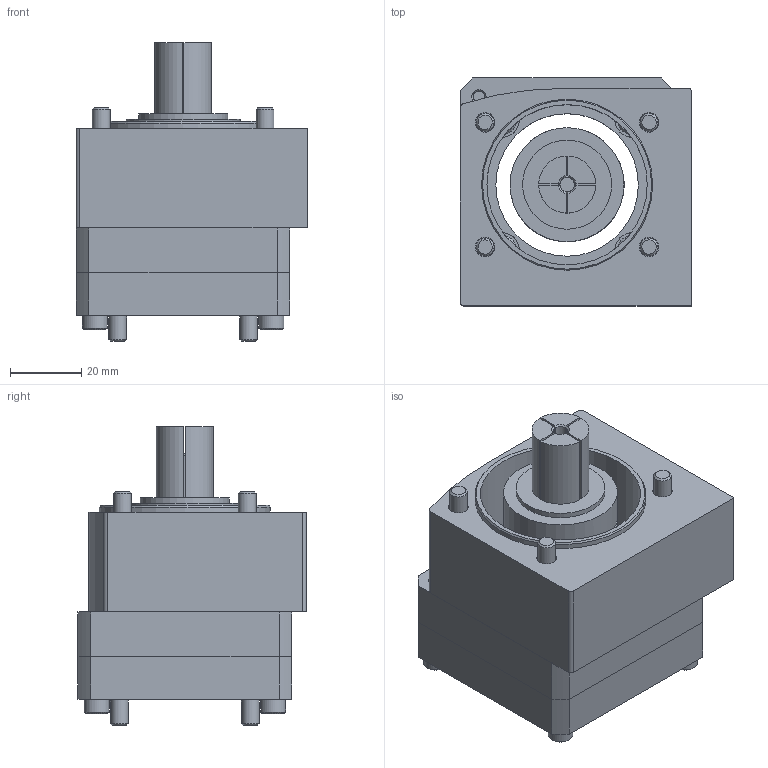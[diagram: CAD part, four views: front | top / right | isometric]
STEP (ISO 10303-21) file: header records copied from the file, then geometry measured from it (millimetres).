
FILE_DESCRIPTION(/* description */ ('EAMK-A O-Coupling housing'),/* implementation_level */ '2;1');
FILE_NAME(/* name */ 'C:\STORE\ホームページ用データ\\X2\30E230FC30BF53D64ED830AD30C330C8\X0\_2016_2016.10.06_\X2\30AB30BF30ED30B065398A025206\X0\\3D_STEP\1456611.stp',/* time_stamp */ '2016-10-06T16:14:03+09:00',/* author */ ('jp0tot'),/* organization */ ('FESTO'),/* preprocessor_version */ 'ST-DEVELOPER v15.6',/* originating_system */ 'Autodesk Inventor 2015',/* authorisation */ '');
FILE_SCHEMA (('AUTOMOTIVE_DESIGN { 1 0 10303 214 3 1 1 }'));
Length unit declared in the file: millimetre
Products named in the file (8): 558012 EAMK-A-L48-48A---(6O); 558019 EAMF-A-48A-60G_H(6A10); 660080 EAMF-A-44A_B-60G_H; DIN-912 - M4x20(F); DIN-912 - M5x10(F); 1377840 EAMD-32-32-14-16x20; DIN-912 - M5x40(F); 1456611 EAMM-A-L48-60H
Bounding box: 65 x 64 x 83.8 mm (x, y, z)
Volume: 136652.6 mm3; surface area: 57573.6 mm2
Topology: 16 solids, 17 shells, 590 faces, 1393 edges, 852 vertices
Faces by surface type: plane 289, cone 161, cylinder 130, torus 10
Full cylindrical faces by diameter (mm): 3.242 x5, 4 x5, 4.5 x4, 5 x8, 5.5 x12, 7 x5, 7.2 x1, 8.5 x10, 10 x4, 12 x1, 14 x1, 25 x1, 32 x1, 40 x1, 45 x1, 48 x3
Entity records: 10369 total; most frequent: CARTESIAN_POINT 2096, DIRECTION 1751, ORIENTED_EDGE 1564, EDGE_CURVE 782, AXIS2_PLACEMENT_3D 697, VERTEX_POINT 542, EDGE_LOOP 480, LINE 357
